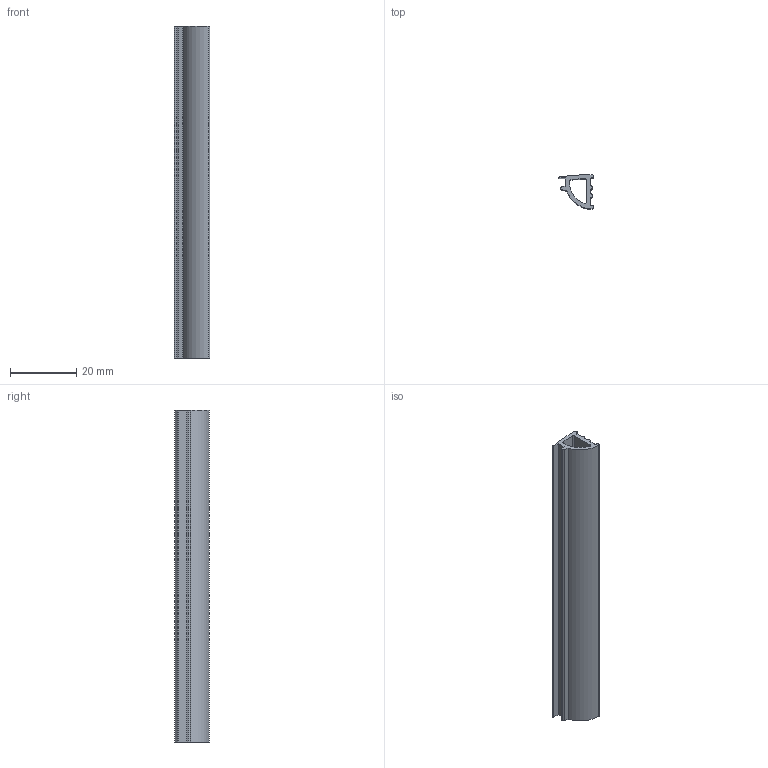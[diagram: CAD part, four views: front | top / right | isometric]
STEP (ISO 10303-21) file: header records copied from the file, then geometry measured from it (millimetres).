
FILE_DESCRIPTION (( 'STEP AP203' ), '1' );
FILE_NAME ('013.512.003.STEP', '2021-03-22T07:23:23', ( '' ), ( '' ), 'SwSTEP 2.0', 'SolidWorks 2018', '' );
FILE_SCHEMA (( 'CONFIG_CONTROL_DESIGN' ));
Length unit declared in the file: millimetre
Products named in the file (1): 013.512.003
Bounding box: 10.65 x 10.3 x 100 mm (x, y, z)
Volume: 3851.1 mm3; surface area: 6469.4 mm2
Topology: 1 solids, 1 shells, 29 faces, 81 edges, 54 vertices
Faces by surface type: cylinder 17, plane 12
Entity records: 1030 total; most frequent: DIRECTION 175, CARTESIAN_POINT 165, ORIENTED_EDGE 162, EDGE_CURVE 81, AXIS2_PLACEMENT_3D 64, VERTEX_POINT 54, VECTOR 47, LINE 47
